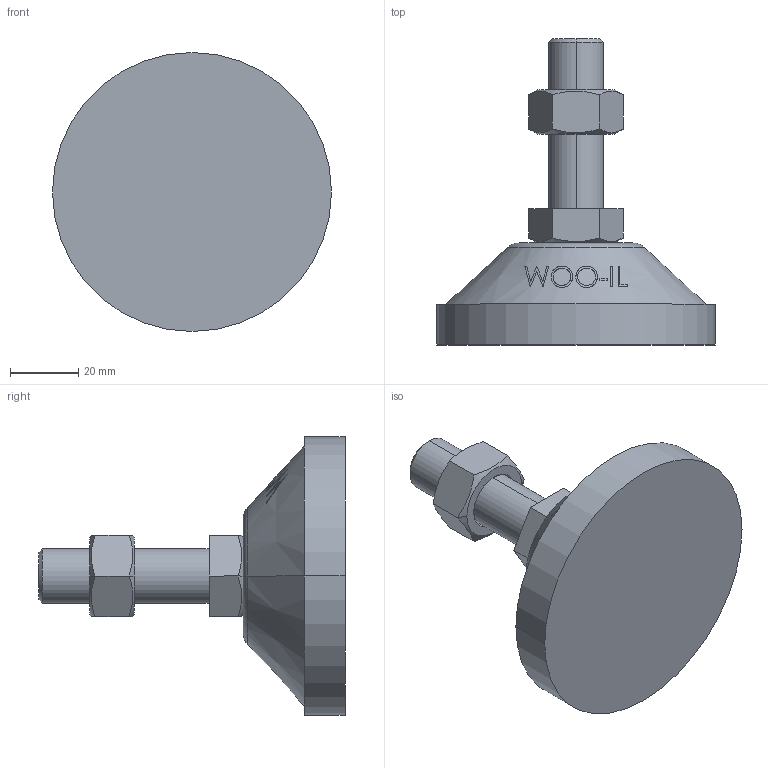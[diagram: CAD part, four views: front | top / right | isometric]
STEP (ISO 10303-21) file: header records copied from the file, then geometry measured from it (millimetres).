
FILE_DESCRIPTION (( 'STEP AP214' ), '1' );
FILE_NAME ('RL82-M16-50.step', '2021-01-06T08:18:16', ( '' ), ( '' ), 'SwSTEP 2.0', 'SolidWorks 2019', '' );
FILE_SCHEMA (( 'AUTOMOTIVE_DESIGN' ));
Length unit declared in the file: millimetre
Products named in the file (1): RL82-M16-50
Bounding box: 82 x 90 x 82 mm (x, y, z)
Volume: 129644.3 mm3; surface area: 21386.4 mm2
Topology: 3 solids, 3 shells, 93 faces, 217 edges, 140 vertices
Faces by surface type: plane 47, cone 22, bspline 16, cylinder 6, torus 2
Entity records: 4223 total; most frequent: CARTESIAN_POINT 2191, ORIENTED_EDGE 434, DIRECTION 349, EDGE_CURVE 217, VERTEX_POINT 140, AXIS2_PLACEMENT_3D 134, EDGE_LOOP 105, ADVANCED_FACE 93
